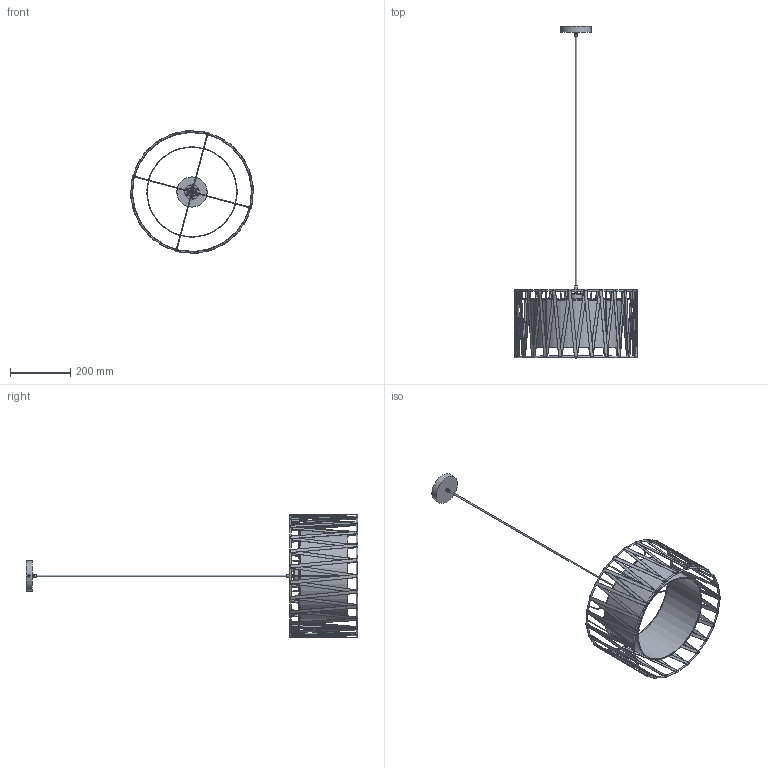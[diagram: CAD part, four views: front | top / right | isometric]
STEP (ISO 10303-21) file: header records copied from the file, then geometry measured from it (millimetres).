
FILE_DESCRIPTION(/* description */ (''),/* implementation_level */ '2;1');
FILE_NAME(/* name */ 'C:/Users/kubaw/OneDrive/Pulpit/TK_lighting - modele 2/OK/1654_HARMONY/1654_HARMONY.step',/* time_stamp */ '2021-04-02T07:38:57+02:00',/* author */ (''),/* organization */ (''),/* preprocessor_version */ 'ST-DEVELOPER v18.1',/* originating_system */ 'Autodesk Translation Framework v9.10.0.1330',/* authorisation */ '');
FILE_SCHEMA (('AUTOMOTIVE_DESIGN { 1 0 10303 214 3 1 1 }'));
Length unit declared in the file: millimetre
Products named in the file (5): 1654_HARMONY; 1654_KLOSZ HARMONY; MOCOWANIE_HARMONY; ŚRUBA_HARMONY; ŚRUBA_HARMONY v1(Mirror)
Assembly tree (4 placements, depth 2):
  1654_HARMONY
    1654_KLOSZ HARMONY
    MOCOWANIE_HARMONY
    ŚRUBA_HARMONY
    ŚRUBA_HARMONY v1(Mirror)
Bounding box: 406.98 x 1100 x 406.98 mm (x, y, z)
Volume: 545690.9 mm3; surface area: 676810.1 mm2
Topology: 125 solids, 125 shells, 728 faces, 1418 edges, 946 vertices
Faces by surface type: plane 364, bspline 207, torus 114, cylinder 40, cone 3
Full cylindrical faces by diameter (mm): 2.4 x6, 3 x6, 5 x1, 6 x5, 8 x2, 11 x1, 13 x1, 26.04 x1, 30.24 x1, 31.08 x1, 33.6 x1, 42 x1, 47.04 x1, 48.72 x1, 100 x1, 298 x1, 300 x1
Entity records: 22248 total; most frequent: CARTESIAN_POINT 7170, DIRECTION 3113, ORIENTED_EDGE 2836, EDGE_CURVE 1418, AXIS2_PLACEMENT_3D 1223, VERTEX_POINT 946, EDGE_LOOP 752, FACE_OUTER_BOUND 728
